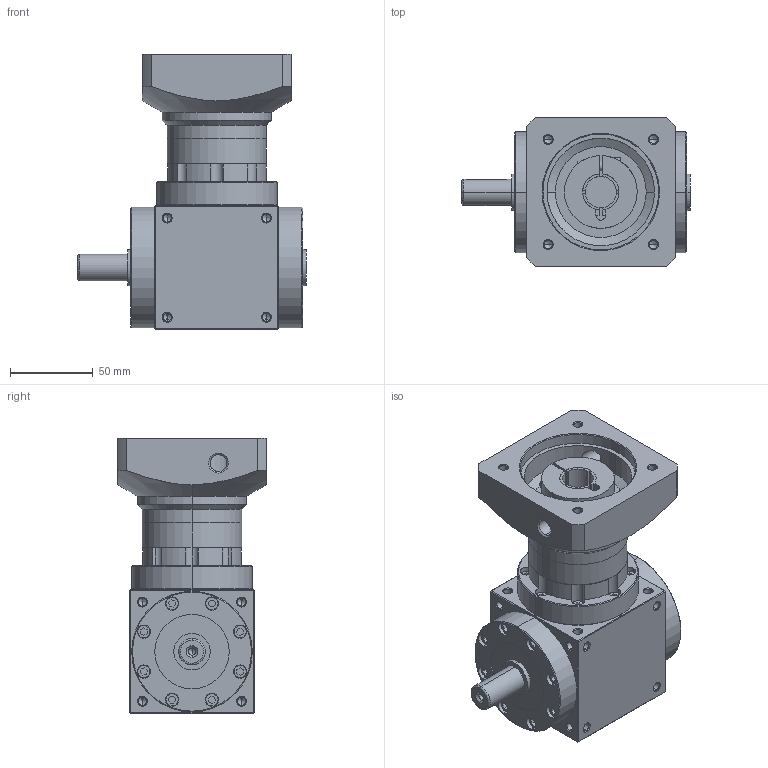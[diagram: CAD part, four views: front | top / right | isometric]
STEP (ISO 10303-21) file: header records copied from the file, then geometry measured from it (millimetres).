
FILE_DESCRIPTION (( 'STEP AP203' ), '1' );
FILE_NAME ('AT075-FL1-L2-19-70-90M6.STEP', '2025-11-27T09:37:16', ( 'Windows User' ), ( 'P R C' ), 'SwSTEP 2.0', 'SolidWorks 2016', '' );
FILE_SCHEMA (( 'CONFIG_CONTROL_DESIGN' ));
Length unit declared in the file: millimetre
Products named in the file (6): AT75FL1-转角箱体-批量-左-单轴输出; AT75FL1-怀堤楊擘-蠶講; AT75FL1-单级齿圈; AT75FL1-输入法兰-E-70-M6-90; 输入胀套-22; AT075-FL1-L2-19-70-90M6
Assembly tree (5 placements, depth 2):
  AT075-FL1-L2-19-70-90M6
    AT75FL1-转角箱体-批量-左-单轴输出
    AT75FL1-怀堤楊擘-蠶講
    AT75FL1-单级齿圈
    AT75FL1-输入法兰-E-70-M6-90
    输入胀套-22
Bounding box: 138 x 90 x 166.5 mm (x, y, z)
Volume: 656815.2 mm3; surface area: 146805.9 mm2
Topology: 5 solids, 21 shells, 1599 faces, 4017 edges, 2511 vertices
Faces by surface type: plane 774, cylinder 373, cone 294, bspline 158
Entity records: 54117 total; most frequent: CARTESIAN_POINT 16713, ORIENTED_EDGE 7798, DIRECTION 7151, EDGE_CURVE 3899, LINE 2513, VECTOR 2513, VERTEX_POINT 2511, AXIS2_PLACEMENT_3D 2319
